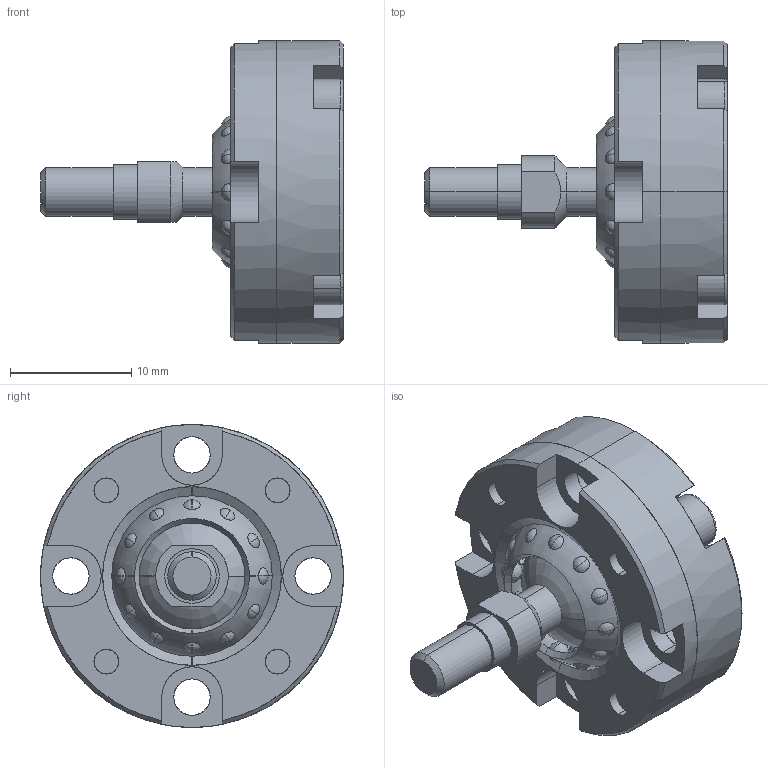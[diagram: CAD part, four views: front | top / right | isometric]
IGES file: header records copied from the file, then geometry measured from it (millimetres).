
Start section: SolidWorks IGES file using analytic representation for surfaces
Global section: file name: C:\Users\render\Documents\CAD Files\SRJ\SRJ006C\SR JOINT - SRJ006C.IGS; native system: SolidWorks 2009; preprocessor: SolidWorks 2009; author: render; date: 100601.153050; units: millimetre
Bounding box: 25 x 25 x 25 mm (x, y, z)
Surface area: 4395 mm2 (no closed solid volume)
Topology: 0 solids, 0 shells, 286 faces, 6041 edges, 5968 vertices
Faces by surface type: revolution 190, bspline 96
